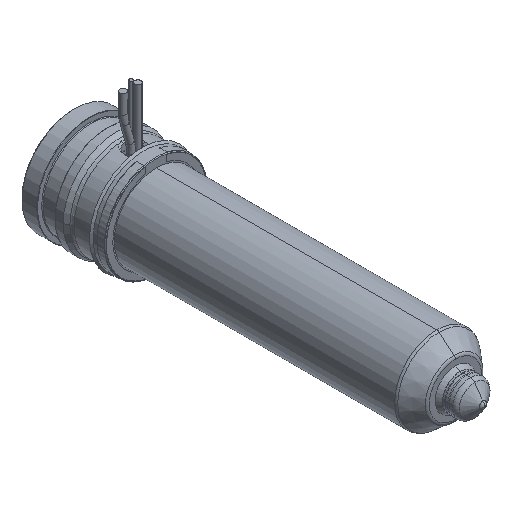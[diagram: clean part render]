
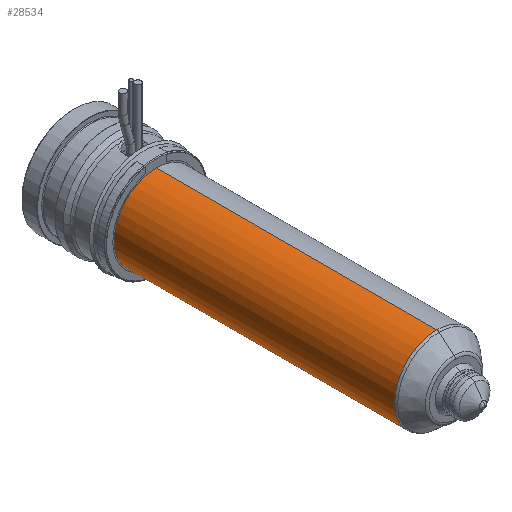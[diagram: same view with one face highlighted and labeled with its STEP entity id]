
A CAD part, isometric view. The second image highlights one B-rep face of the part: STEP entity #28534.
In plain terms, the highlighted cylindrical face has radius 12 mm (diameter 24 mm), a partial arc.
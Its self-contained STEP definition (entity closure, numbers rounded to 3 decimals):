
#28019=CARTESIAN_POINT('',(0.,-24.,0.));
#28020=DIRECTION('',(0.,1.,0.));
#28021=DIRECTION('',(0.,0.,-1.));
#28022=AXIS2_PLACEMENT_3D('',#28019,#28020,#28021);
#28027=DIRECTION('',(0.,1.,0.));
#28028=VECTOR('',#28027,79.736);
#28029=CARTESIAN_POINT('',(0.,-103.736,12.));
#28030=LINE('',#28029,#28028);
#28042=DIRECTION('',(0.,1.,0.));
#28043=VECTOR('',#28042,79.736);
#28044=CARTESIAN_POINT('',(0.,-103.736,-12.));
#28045=LINE('',#28044,#28043);
#28073=CARTESIAN_POINT('',(0.,-103.736,0.));
#28074=DIRECTION('',(0.,-1.,0.));
#28075=DIRECTION('',(0.,0.,1.));
#28076=AXIS2_PLACEMENT_3D('',#28073,#28074,#28075);
#28403=CARTESIAN_POINT('',(0.,-103.736,12.));
#28404=CARTESIAN_POINT('',(0.,-24.,12.));
#28405=VERTEX_POINT('',#28403);
#28406=VERTEX_POINT('',#28404);
#28407=CARTESIAN_POINT('',(0.,-103.736,-12.));
#28408=CARTESIAN_POINT('',(0.,-24.,-12.));
#28409=VERTEX_POINT('',#28407);
#28410=VERTEX_POINT('',#28408);
#28520=CARTESIAN_POINT('',(0.,-15.125,0.));
#28521=DIRECTION('',(0.,-1.,0.));
#28522=DIRECTION('',(0.,0.,1.));
#28523=AXIS2_PLACEMENT_3D('',#28520,#28521,#28522);
#28524=CYLINDRICAL_SURFACE('',#28523,12.);
#28526=ORIENTED_EDGE('',*,*,#28525,.F.);
#28528=ORIENTED_EDGE('',*,*,#28527,.T.);
#28530=ORIENTED_EDGE('',*,*,#28529,.T.);
#28531=ORIENTED_EDGE('',*,*,#28513,.T.);
#28532=EDGE_LOOP('',(#28526,#28528,#28530,#28531));
#28533=FACE_OUTER_BOUND('',#28532,.F.);
#28534=ADVANCED_FACE('',(#28533),#28524,.T.);
#28023=CIRCLE('',#28022,12.);
#28077=CIRCLE('',#28076,12.);
#28513=EDGE_CURVE('',#28410,#28406,#28023,.T.);
#28525=EDGE_CURVE('',#28405,#28406,#28030,.T.);
#28527=EDGE_CURVE('',#28405,#28409,#28077,.T.);
#28529=EDGE_CURVE('',#28409,#28410,#28045,.T.);
